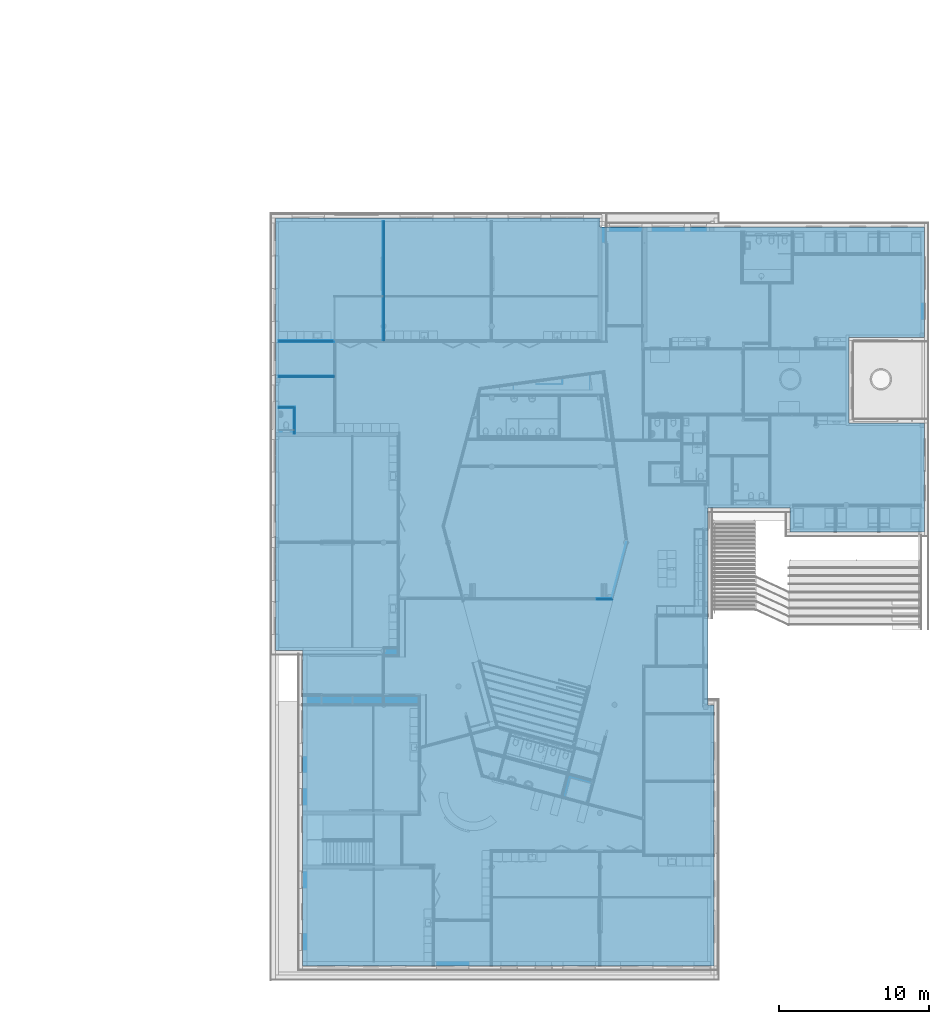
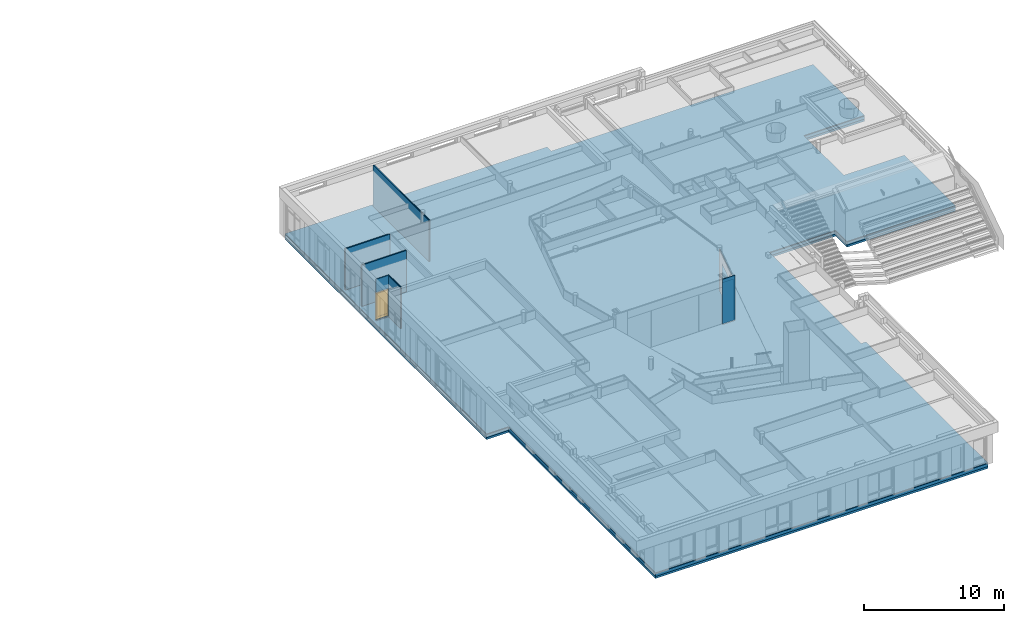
# One storey, part 62 of 167: 21 building element parts, 1 door, 2 openings, 8 elements without a shape of their own, plus 1 element that does not belong to this part.
"""IFC2X3 building model written with IfcOpenShell, lengths in millimetres."""

from ifc_helpers import new_model, entity, si_unit, converted_unit, derived_unit, money_unit, direction, frame, origin_with_axes, place, context, subcontext, project, spatial, open_shell, faceted_brep, surface_model, material, type_object, element, fill, aggregate, save


model = new_model("IFC2X3")

# Units and contexts
model_context = context("Model", 3, precision=0.01, world=origin_with_axes(), true_north=direction((0.0, 1.0)))
plan_context = context("Plan", 3, precision=0.01, world=origin_with_axes(), true_north=direction((0.0, 1.0)))
body_context = subcontext(model_context, "Body", "Model", "MODEL_VIEW")
ifc_project = project(units=[si_unit("LENGTHUNIT", "METRE", prefix="MILLI"), si_unit("AREAUNIT", "SQUARE_METRE"), si_unit("VOLUMEUNIT", "CUBIC_METRE"), converted_unit("PLANEANGLEUNIT", "DEGREE", entity("IfcPlaneAngleMeasure", 0.0174532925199), si_unit("PLANEANGLEUNIT", "RADIAN"), dimensions=[0, 0, 0, 0, 0, 0, 0]), si_unit("SOLIDANGLEUNIT", "STERADIAN"), money_unit("EUR"), converted_unit("TIMEUNIT", "Year", entity("IfcTimeMeasure", 31556926.0), si_unit("TIMEUNIT", "SECOND"), dimensions=[0, 0, 1, 0, 0, 0, 0]), si_unit("MASSUNIT", "GRAM", prefix="KILO"), si_unit("THERMODYNAMICTEMPERATUREUNIT", "DEGREE_CELSIUS"), si_unit("LUMINOUSINTENSITYUNIT", "LUMEN"), si_unit("ENERGYUNIT", "JOULE", prefix="MEGA"), derived_unit("THERMALCONDUCTANCEUNIT", [(si_unit("POWERUNIT", "WATT"), 1), (si_unit("LENGTHUNIT", "METRE"), -1), (si_unit("THERMODYNAMICTEMPERATUREUNIT", "KELVIN"), -1)]), derived_unit("SPECIFICHEATCAPACITYUNIT", [(si_unit("ENERGYUNIT", "JOULE"), 1), (si_unit("MASSUNIT", "GRAM", prefix="KILO"), -1), (si_unit("THERMODYNAMICTEMPERATUREUNIT", "KELVIN"), -1)]), derived_unit("MASSDENSITYUNIT", [(si_unit("MASSUNIT", "GRAM", prefix="KILO"), 1), (si_unit("VOLUMEUNIT", "CUBIC_METRE"), -1)])], contexts=[model_context, plan_context])

# Site, building, storey
site_placement = place(None, origin_with_axes())
site = spatial("IfcSite", under=ifc_project, at=site_placement, Name="Site", CompositionType="ELEMENT")
building_placement = place(site_placement, origin_with_axes())
building = spatial("IfcBuilding", under=site, at=building_placement, Name="Naam gebouw", CompositionType="ELEMENT")
storey_placement = place(building_placement, origin_with_axes())
storey = spatial("IfcBuildingStorey", under=building, at=storey_placement, Name="Begane grond", CompositionType="ELEMENT", Elevation=0.0)

# Door
door_style = type_object("IfcDoorStyle", Name="D1 24", ConstructionType="NOTDEFINED", OperationType="SINGLE_SWING_RIGHT", ParameterTakesPrecedence=False, Sizeable=False)
wall_4_placement = place(storey_placement, frame((0.0, 37789.6283451, -100.0), z_axis=(0.0, 0.0, 1.0), x_axis=(1.0, 0.0, 0.0)))
opening_1_placement = place(wall_4_placement, frame((715.57327863, 0.0, 102.0), z_axis=(0.0, 0.0, 1.0), x_axis=(1.0, 0.0, 0.0)))
door_placement = place(opening_1_placement, frame((-517.0, 0.0, 0.0), z_axis=(0.0, 0.0, 1.0), x_axis=(1.0, 0.0, 0.0)))
door = element("IfcDoor", 1, at=door_placement, inside=storey, type_object=door_style, Name="32_Deur_Hi-01s", ObjectType="DOOR", OverallHeight=2367.0, OverallWidth=1034.0, context=body_context, shape_type="SurfaceModel", body=[
    faceted_brep([(67.0, 10.0, 0.0), (67.0, 10.0, 2300.0), (67.0, -64.0, 2300.0), (67.0, -64.0, 0.0), (42.0, 10.0, 2300.0), (42.0, 10.0, 0.0), (42.0, 50.0, 2300.0), (0.0, 50.0, 2300.0), (0.0, -64.0, 2300.0), (0.0, -64.0, 0.0), (0.0, 50.0, 0.0), (42.0, 50.0, 0.0)], [[[0, 1, 2, 3]], [[4, 1, 0, 5]], [[4, 6, 7, 8, 2, 1]], [[3, 2, 8, 9]], [[5, 0, 3, 9, 10, 11]], [[6, 4, 5, 11]], [[6, 11, 10, 7]], [[10, 9, 8, 7]]]),
    faceted_brep([(992.0, 10.0, 2300.0), (967.0, 10.0, 2300.0), (967.0, -64.0, 2300.0), (1034.0, -64.0, 2300.0), (1034.0, 50.0, 2300.0), (992.0, 50.0, 2300.0), (992.0, 10.0, 0.0), (967.0, 10.0, 0.0), (967.0, -64.0, 0.0), (1034.0, -64.0, 0.0), (1034.0, 50.0, 0.0), (992.0, 50.0, 0.0)], [[[0, 1, 2, 3, 4, 5]], [[1, 0, 6, 7]], [[1, 7, 8, 2]], [[3, 2, 8, 9]], [[4, 3, 9, 10]], [[11, 5, 4, 10]], [[0, 5, 11, 6]], [[6, 11, 10, 9, 8, 7]]]),
    faceted_brep([(42.0, 50.0, 2325.0), (42.0, 50.0, 2300.0), (0.0, 50.0, 2300.0), (0.0, 50.0, 2367.0), (1034.0, 50.0, 2367.0), (1034.0, 50.0, 2300.0), (992.0, 50.0, 2300.0), (992.0, 50.0, 2325.0), (42.0, 10.0, 2325.0), (42.0, 10.0, 2300.0), (67.0, 10.0, 2300.0), (67.0, -64.0, 2300.0), (0.0, -64.0, 2300.0), (0.0, -64.0, 2367.0), (1034.0, -64.0, 2367.0), (1034.0, -64.0, 2300.0), (992.0, 10.0, 2300.0), (967.0, -64.0, 2300.0), (967.0, 10.0, 2300.0), (992.0, 10.0, 2325.0)], [[[0, 1, 2, 3, 4, 5, 6, 7]], [[1, 0, 8, 9]], [[9, 10, 11, 12, 2, 1]], [[2, 12, 13, 3]], [[3, 13, 14, 4]], [[4, 14, 15, 5]], [[16, 6, 5, 15, 17, 18]], [[7, 6, 16, 19]], [[0, 7, 19, 8]], [[16, 18, 10, 9, 8, 19]], [[10, 18, 17, 11]], [[17, 15, 14, 13, 12, 11]]]),
    faceted_brep([(992.0, 50.0, 200.0), (992.0, 10.0, 200.0), (892.0, 10.0, 200.0), (892.0, 50.0, 200.0), (992.0, 50.0, 2225.0), (992.0, 10.0, 2225.0), (892.0, 10.0, 2225.0), (892.0, 50.0, 2225.0)], [[[0, 1, 2, 3]], [[4, 5, 1, 0]], [[1, 5, 6, 2]], [[3, 2, 6, 7]], [[0, 3, 7, 4]], [[7, 6, 5, 4]]]),
    faceted_brep([(42.0, 50.0, 200.0), (42.0, 10.0, 200.0), (42.0, 10.0, 2225.0), (42.0, 50.0, 2225.0), (142.0, 50.0, 200.0), (142.0, 10.0, 200.0), (142.0, 10.0, 2225.0), (142.0, 50.0, 2225.0)], [[[0, 1, 2, 3]], [[4, 5, 1, 0]], [[1, 5, 6, 2]], [[3, 2, 6, 7]], [[0, 3, 7, 4]], [[7, 6, 5, 4]]]),
    faceted_brep([(992.0, 50.0, 0.0), (992.0, 10.0, 0.0), (42.0, 10.0, 0.0), (42.0, 50.0, 0.0), (992.0, 50.0, 200.0), (992.0, 10.0, 200.0), (892.0, 10.0, 200.0), (142.0, 10.0, 200.0), (42.0, 10.0, 200.0), (42.0, 50.0, 200.0), (142.0, 50.0, 200.0), (892.0, 50.0, 200.0)], [[[0, 1, 2, 3]], [[4, 5, 1, 0]], [[1, 5, 6, 7, 8, 2]], [[3, 2, 8, 9]], [[0, 3, 9, 10, 11, 4]], [[11, 6, 5, 4]], [[10, 7, 6, 11]], [[9, 8, 7, 10]]]),
    faceted_brep([(992.0, 50.0, 2325.0), (992.0, 10.0, 2325.0), (992.0, 10.0, 2225.0), (992.0, 50.0, 2225.0), (42.0, 50.0, 2325.0), (42.0, 10.0, 2325.0), (42.0, 10.0, 2225.0), (142.0, 10.0, 2225.0), (892.0, 10.0, 2225.0), (892.0, 50.0, 2225.0), (142.0, 50.0, 2225.0), (42.0, 50.0, 2225.0)], [[[0, 1, 2, 3]], [[4, 5, 1, 0]], [[1, 5, 6, 7, 8, 2]], [[3, 2, 8, 9]], [[0, 3, 9, 10, 11, 4]], [[11, 6, 5, 4]], [[10, 7, 6, 11]], [[9, 8, 7, 10]]]),
    surface_model("IfcShellBasedSurfaceModel", [(892.0, 36.0, 200.0), (142.0, 36.0, 200.0), (142.0, 36.0, 2225.0), (892.0, 36.0, 2225.0)], [open_shell([[[0, 1, 2, 3]]])]),
    surface_model("IfcShellBasedSurfaceModel", [(892.0, 24.0, 200.0), (892.0, 24.0, 2225.0), (142.0, 24.0, 2225.0), (142.0, 24.0, 200.0)], [open_shell([[[0, 1, 2, 3]]])]),
])

# Wall, building element parts
wall_type = type_object("IfcWallType", Name="_TenW_22_Metalstud 100 enkel gipsvezelplaat 100", PredefinedType="NOTDEFINED")
wall_1_placement = place(storey_placement, frame((0.0, 42200.0, -100.0), z_axis=(0.0, 0.0, 1.0), x_axis=(1.0, 0.0, 0.0)))
wall_1 = element("IfcWall", 2, at=wall_1_placement, inside=storey, type_object=wall_type, Name="22_Wand_Wand-x")
ifc_material_1 = material(Name="Gipsplaat watervast")
building_element_part_1_placement = place(wall_1_placement, origin_with_axes())
building_element_part_1 = element("IfcBuildingElementPart", 3, at=building_element_part_1_placement, material=ifc_material_1, Name="Gipsplaat watervast", context=body_context, shape_type="Brep", body=[
    faceted_brep([(3800.0, 37.5, 30.0), (3800.0, 50.0, 30.0), (3800.0, 50.0, 3630.0), (3800.0, 37.5, 3630.0), (214.0, 50.0, 30.0), (214.0, 37.5, 30.0), (214.0, 50.0, 3630.0), (214.0, 37.5, 3630.0)], [[[0, 1, 2, 3]], [[4, 1, 0, 5]], [[1, 4, 6, 2]], [[7, 3, 2, 6]], [[5, 0, 3, 7]], [[4, 5, 7, 6]]]),
])
ifc_material_2 = material(Name="Isolatie - Steenwol zacht")
building_element_part_2_placement = place(wall_1_placement, origin_with_axes())
building_element_part_2 = element("IfcBuildingElementPart", 4, at=building_element_part_2_placement, material=ifc_material_2, Name="Isolatie - Steenwol zacht", context=body_context, shape_type="Brep", body=[
    faceted_brep([(3800.0, -37.5, 30.0), (3800.0, 37.5, 30.0), (3800.0, 37.5, 3630.0), (3800.0, -37.5, 3630.0), (214.0, 37.5, 30.0), (214.0, -37.5, 30.0), (214.0, 37.5, 3630.0), (214.0, -37.5, 3630.0)], [[[0, 1, 2, 3]], [[4, 1, 0, 5]], [[1, 4, 6, 2]], [[7, 3, 2, 6]], [[5, 0, 3, 7]], [[4, 5, 7, 6]]]),
])
building_element_part_3_placement = place(wall_1_placement, origin_with_axes())
building_element_part_3 = element("IfcBuildingElementPart", 5, at=building_element_part_3_placement, material=ifc_material_1, Name="Gipsplaat watervast", context=body_context, shape_type="Brep", body=[
    faceted_brep([(3912.5, -50.0, 30.0), (3912.5, -37.5, 30.0), (3912.5, -37.5, 3629.9999999), (3912.5, -50.0, 3629.9999999), (214.0, -37.5, 30.0), (214.0, -50.0, 30.0), (214.0, -37.5, 3630.0), (214.0, -50.0, 3630.0)], [[[0, 1, 2, 3]], [[4, 1, 0, 5]], [[1, 4, 6, 2]], [[2, 6, 7, 3]], [[5, 0, 3, 7]], [[4, 5, 7, 6]]]),
])
aggregate(wall_1, [building_element_part_1, building_element_part_2, building_element_part_3])

wall_2_placement = place(storey_placement, frame((7200.0, 50400.0, -100.0), z_axis=(0.0, 0.0, 1.0), x_axis=(0.0, -1.0, 0.0)))
wall_2 = element("IfcWall", 6, at=wall_2_placement, inside=storey, type_object=wall_type, Name="22_Wand_Wand-x")
building_element_part_4_placement = place(wall_2_placement, origin_with_axes())
building_element_part_4 = element("IfcBuildingElementPart", 7, at=building_element_part_4_placement, material=ifc_material_1, Name="Gipsplaat watervast", context=body_context, shape_type="Brep", body=[
    faceted_brep([(8150.0, 50.0, 30.0), (214.0, 50.0, 30.0), (214.0, 50.0, 3630.0), (8150.0, 50.0, 3629.99999994), (214.0, 37.5, 30.0), (8150.0, 37.5, 30.0), (214.0, 37.5, 3630.0), (8150.0, 37.5, 3629.99999994)], [[[0, 1, 2, 3]], [[4, 1, 0, 5]], [[1, 4, 6, 2]], [[3, 2, 6, 7]], [[5, 0, 3, 7]], [[4, 5, 7, 6]]]),
])
building_element_part_5_placement = place(wall_2_placement, origin_with_axes())
building_element_part_5 = element("IfcBuildingElementPart", 8, at=building_element_part_5_placement, material=ifc_material_2, Name="Isolatie - Steenwol zacht", context=body_context, shape_type="Brep", body=[
    faceted_brep([(8162.5, 37.5, 30.0), (214.0, 37.5, 30.0), (214.0, 37.5, 3630.0), (8162.5, 37.5, 3629.99999995), (214.0, -37.5, 30.0), (8162.5, -37.5, 30.0), (214.0, -37.5, 3630.0), (8162.5, -37.5, 3629.99999995)], [[[0, 1, 2, 3]], [[4, 1, 0, 5]], [[1, 4, 6, 2]], [[3, 2, 6, 7]], [[5, 0, 3, 7]], [[4, 5, 7, 6]]]),
])
building_element_part_6_placement = place(wall_2_placement, origin_with_axes())
building_element_part_6 = element("IfcBuildingElementPart", 9, at=building_element_part_6_placement, material=ifc_material_1, Name="Gipsplaat watervast", context=body_context, shape_type="Brep", body=[
    faceted_brep([(8150.0, -37.5, 30.0), (214.0, -37.5, 30.0), (214.0, -37.5, 3630.0), (8150.0, -37.5, 3629.99999994), (214.0, -50.0, 30.0), (8150.0, -50.0, 30.0), (214.0, -50.0, 3630.0), (8150.0, -50.0, 3629.99999994)], [[[0, 1, 2, 3]], [[4, 1, 0, 5]], [[1, 4, 6, 2]], [[3, 2, 6, 7]], [[5, 0, 3, 7]], [[4, 5, 7, 6]]]),
])
aggregate(wall_2, [building_element_part_4, building_element_part_5, building_element_part_6])

# Slab, building element parts
slab_type = type_object("IfcSlabType", Name="_TenW_23_260mm Kanaalplaat+dv+iso RC 4,5 570", PredefinedType="NOTDEFINED")
slab_placement = place(storey_placement, frame((1800.0, 600.0, 0.0), z_axis=(0.0, 0.0, 1.0), x_axis=(1.0, 0.0, 0.0)))
slab = element("IfcSlab", 10, at=slab_placement, inside=storey, type_object=slab_type, Name="23_Vloer_Vloer-x", PredefinedType="NOTDEFINED")
ifc_material_3 = material(Name="Beton gewapend C vloer")
building_element_part_7_placement = place(slab_placement, origin_with_axes())
building_element_part_7 = element("IfcBuildingElementPart", 11, at=building_element_part_7_placement, material=ifc_material_3, Name="Beton gewapend C vloer", context=body_context, shape_type="Brep", body=[
    faceted_brep([(27400.0, 0.0, -130.0), (27400.0, 0.0, -70.0), (0.0, 0.0, -70.0), (0.0, 0.0, -130.0), (27400.0, 17400.0, -130.0), (27400.0, 17400.0, -70.0), (27000.0, 17400.0, -70.0), (27000.0, 30485.9997845, -70.0), (32461.0000014, 30485.9997845, -70.0), (32461.0000014, 28886.0000132, -70.0), (41400.0, 28886.0000132, -70.0), (41400.0, 36149.9999919, -70.0), (36392.3999539, 36149.9999919, -70.0), (36392.3999539, 41850.0, -70.0), (41400.0, 41850.0, -70.0), (41400.0, 49200.0, -70.0), (19800.0, 49200.0, -70.0), (19800.0, 49800.0, -70.0), (-1800.0, 49800.0, -70.0), (-1800.0, 21000.0, -70.0), (0.0, 21000.0, -70.0), (0.0, 21000.0, -130.0), (-1800.0, 21000.0, -130.0), (-1800.0, 49800.0, -130.0), (19800.0, 49800.0, -130.0), (19800.0, 49200.0, -130.0), (41400.0, 49200.0, -130.0), (41400.0, 41850.0, -130.0), (36392.3999539, 41850.0, -130.0), (36392.3999539, 36149.9999919, -130.0), (41400.0, 36149.9999919, -130.0), (41400.0, 28886.0000132, -130.0), (32461.0000014, 28886.0000132, -130.0), (32461.0000014, 30485.9997845, -130.0), (27000.0, 30485.9997845, -130.0), (27000.0, 17400.0, -130.0)], [[[0, 1, 2, 3]], [[4, 5, 1, 0]], [[2, 1, 5, 6, 7, 8, 9, 10, 11, 12, 13, 14, 15, 16, 17, 18, 19, 20]], [[3, 2, 20, 21]], [[3, 21, 22, 23, 24, 25, 26, 27, 28, 29, 30, 31, 32, 33, 34, 35, 4, 0]], [[35, 6, 5, 4]], [[34, 7, 6, 35]], [[33, 8, 7, 34]], [[32, 9, 8, 33]], [[31, 10, 9, 32]], [[30, 11, 10, 31]], [[29, 12, 11, 30]], [[28, 13, 12, 29]], [[27, 14, 13, 28]], [[26, 15, 14, 27]], [[25, 16, 15, 26]], [[24, 17, 16, 25]], [[23, 18, 17, 24]], [[22, 19, 18, 23]], [[21, 20, 19, 22]]]),
])
ifc_material_4 = material(Name="Beton gewapend prefab vloer")
building_element_part_8_placement = place(slab_placement, origin_with_axes())
building_element_part_8 = element("IfcBuildingElementPart", 12, at=building_element_part_8_placement, material=ifc_material_4, Name="Beton gewapend prefab vloer", context=body_context, shape_type="Brep", body=[
    faceted_brep([(27400.0, 0.0, -390.0), (27400.0, 0.0, -130.0), (0.0, 0.0, -130.0), (0.0, 0.0, -390.0), (27400.0, 17400.0, -390.0), (27400.0, 17400.0, -130.0), (27000.0, 17400.0, -130.0), (27000.0, 30485.9997845, -130.0), (32461.0000014, 30485.9997845, -130.0), (32461.0000014, 28886.0000132, -130.0), (41400.0, 28886.0000132, -130.0), (41400.0, 36149.9999919, -130.0), (36392.3999539, 36149.9999919, -130.0), (36392.3999539, 41850.0, -130.0), (41400.0, 41850.0, -130.0), (41400.0, 49200.0, -130.0), (19800.0, 49200.0, -130.0), (19800.0, 49800.0, -130.0), (-1800.0, 49800.0, -130.0), (-1800.0, 21000.0, -130.0), (0.0, 21000.0, -130.0), (0.0, 21000.0, -390.0), (-1800.0, 21000.0, -390.0), (-1800.0, 49800.0, -390.0), (19800.0, 49800.0, -390.0), (19800.0, 49200.0, -390.0), (41400.0, 49200.0, -390.0), (41400.0, 41850.0, -390.0), (36392.3999539, 41850.0, -390.0), (36392.3999539, 36149.9999919, -390.0), (41400.0, 36149.9999919, -390.0), (41400.0, 28886.0000132, -390.0), (32461.0000014, 28886.0000132, -390.0), (32461.0000014, 30485.9997845, -390.0), (27000.0, 30485.9997845, -390.0), (27000.0, 17400.0, -390.0)], [[[0, 1, 2, 3]], [[4, 5, 1, 0]], [[2, 1, 5, 6, 7, 8, 9, 10, 11, 12, 13, 14, 15, 16, 17, 18, 19, 20]], [[3, 2, 20, 21]], [[3, 21, 22, 23, 24, 25, 26, 27, 28, 29, 30, 31, 32, 33, 34, 35, 4, 0]], [[35, 6, 5, 4]], [[34, 7, 6, 35]], [[33, 8, 7, 34]], [[32, 9, 8, 33]], [[31, 10, 9, 32]], [[30, 11, 10, 31]], [[29, 12, 11, 30]], [[28, 13, 12, 29]], [[27, 14, 13, 28]], [[26, 15, 14, 27]], [[25, 16, 15, 26]], [[24, 17, 16, 25]], [[23, 18, 17, 24]], [[22, 19, 18, 23]], [[21, 20, 19, 22]]]),
])
ifc_material_5 = material(Name="Isolatie - Kunststof hard")
building_element_part_9_placement = place(slab_placement, origin_with_axes())
building_element_part_9 = element("IfcBuildingElementPart", 13, at=building_element_part_9_placement, material=ifc_material_5, Name="Isolatie - Kunststof hard", context=body_context, shape_type="Brep", body=[
    faceted_brep([(0.0, 0.0, -570.0), (27400.0, 0.0, -570.0), (27400.0, 0.0, -390.0), (0.0, 0.0, -390.0), (0.0, 21000.0, -570.0), (-1800.0, 21000.0, -570.0), (-1800.0, 49800.0, -570.0), (19800.0, 49800.0, -570.0), (19800.0, 49200.0, -570.0), (41400.0, 49200.0, -570.0), (41400.0, 41850.0, -570.0), (36392.3999539, 41850.0, -570.0), (36392.3999539, 36149.9999919, -570.0), (41400.0, 36149.9999919, -570.0), (41400.0, 28886.0000132, -570.0), (32461.0000014, 28886.0000132, -570.0), (32461.0000014, 30485.9997845, -570.0), (27000.0, 30485.9997845, -570.0), (27000.0, 17400.0, -570.0), (27400.0, 17400.0, -570.0), (27400.0, 17400.0, -390.0), (27000.0, 17400.0, -390.0), (27000.0, 30485.9997845, -390.0), (32461.0000014, 30485.9997845, -390.0), (32461.0000014, 28886.0000132, -390.0), (41400.0, 28886.0000132, -390.0), (41400.0, 36149.9999919, -390.0), (36392.3999539, 36149.9999919, -390.0), (36392.3999539, 41850.0, -390.0), (41400.0, 41850.0, -390.0), (41400.0, 49200.0, -390.0), (19800.0, 49200.0, -390.0), (19800.0, 49800.0, -390.0), (-1800.0, 49800.0, -390.0), (-1800.0, 21000.0, -390.0), (0.0, 21000.0, -390.0)], [[[0, 1, 2, 3]], [[0, 4, 5, 6, 7, 8, 9, 10, 11, 12, 13, 14, 15, 16, 17, 18, 19, 1]], [[1, 19, 20, 2]], [[3, 2, 20, 21, 22, 23, 24, 25, 26, 27, 28, 29, 30, 31, 32, 33, 34, 35]], [[4, 0, 3, 35]], [[5, 4, 35, 34]], [[6, 5, 34, 33]], [[7, 6, 33, 32]], [[8, 7, 32, 31]], [[9, 8, 31, 30]], [[10, 9, 30, 29]], [[11, 10, 29, 28]], [[12, 11, 28, 27]], [[13, 12, 27, 26]], [[14, 13, 26, 25]], [[15, 14, 25, 24]], [[16, 15, 24, 23]], [[17, 16, 23, 22]], [[18, 17, 22, 21]], [[19, 18, 21, 20]]]),
])
aggregate(slab, [building_element_part_7, building_element_part_8, building_element_part_9])

# Wall, building element parts
wall_3_placement = place(storey_placement, frame((0.0, 39850.0, -100.0), z_axis=(0.0, 0.0, 1.0), x_axis=(1.0, 0.0, 0.0)))
wall_3 = element("IfcWall", 14, at=wall_3_placement, inside=storey, type_object=wall_type, Name="22_Wand_Wand-x")
building_element_part_10_placement = place(wall_3_placement, origin_with_axes())
building_element_part_10 = element("IfcBuildingElementPart", 15, at=building_element_part_10_placement, material=ifc_material_1, Name="Gipsplaat watervast", context=body_context, shape_type="Brep", body=[
    faceted_brep([(3900.0, 37.5, 30.0), (3900.0, 50.0, 30.0), (3900.0, 50.0, 3629.99999989), (3900.0, 37.5, 3629.99999989), (214.0, 50.0, 30.0), (214.0, 37.5, 30.0), (214.0, 50.0, 3630.0), (214.0, 37.5, 3630.0)], [[[0, 1, 2, 3]], [[4, 1, 0, 5]], [[1, 4, 6, 2]], [[2, 6, 7, 3]], [[5, 0, 3, 7]], [[4, 5, 7, 6]]]),
])
building_element_part_11_placement = place(wall_3_placement, origin_with_axes())
building_element_part_11 = element("IfcBuildingElementPart", 16, at=building_element_part_11_placement, material=ifc_material_2, Name="Isolatie - Steenwol zacht", context=body_context, shape_type="Brep", body=[
    faceted_brep([(3912.5, -37.5, 30.0), (3912.5, 37.5, 30.0), (3912.5, 37.5, 3629.9999999), (3912.5, -37.5, 3629.9999999), (214.0, 37.5, 30.0), (214.0, -37.5, 30.0), (214.0, 37.5, 3630.0), (214.0, -37.5, 3630.0)], [[[0, 1, 2, 3]], [[4, 1, 0, 5]], [[1, 4, 6, 2]], [[2, 6, 7, 3]], [[5, 0, 3, 7]], [[4, 5, 7, 6]]]),
])
building_element_part_12_placement = place(wall_3_placement, origin_with_axes())
building_element_part_12 = element("IfcBuildingElementPart", 17, at=building_element_part_12_placement, material=ifc_material_1, Name="Gipsplaat watervast", context=body_context, shape_type="Brep", body=[
    faceted_brep([(3900.0, -50.0, 30.0), (3900.0, -37.5, 30.0), (3900.0, -37.5, 3629.99999989), (3900.0, -50.0, 3629.99999989), (214.0, -37.5, 30.0), (214.0, -50.0, 30.0), (214.0, -37.5, 3630.0), (214.0, -50.0, 3630.0)], [[[0, 1, 2, 3]], [[4, 1, 0, 5]], [[1, 4, 6, 2]], [[2, 6, 7, 3]], [[5, 0, 3, 7]], [[4, 5, 7, 6]]]),
])
aggregate(wall_3, [building_element_part_10, building_element_part_11, building_element_part_12])

# Wall, opening
wall_4 = element("IfcWall", 18, at=wall_4_placement, inside=storey, type_object=wall_type, Name="22_Wand_Wand-x")
opening_1 = element("IfcOpeningElement", 19, at=opening_1_placement, cuts=wall_4, Name="32_Deur_Hi-01s", context=body_context, shape_type="Brep", body=[
    faceted_brep([(517.0, -100.0, 2367.0), (517.0, -100.0, 0.0), (517.0, 200.0, 0.0), (517.0, 200.0, 2367.0), (-517.0, -100.0, 2367.0), (-517.0, -100.0, 0.0), (-517.0, 200.0, 0.0), (-517.0, 200.0, 2367.0)], [[[0, 1, 2, 3]], [[0, 4, 5, 1]], [[1, 5, 6, 2]], [[3, 2, 6, 7]], [[4, 0, 3, 7]], [[5, 4, 7, 6]]]),
])

fill(opening_1, door)

# Building element part
building_element_part_13_placement = place(wall_4_placement, origin_with_axes())
building_element_part_13 = element("IfcBuildingElementPart", 20, at=building_element_part_13_placement, material=ifc_material_1, Name="Gipsplaat watervast", context=body_context, shape_type="Brep", body=[
    faceted_brep([(214.0, 49.9999852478, 102.0), (1232.57327863, 49.9999852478, 102.0), (1232.57327863, 49.9999852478, 2469.0), (214.0, 49.9999852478, 2469.0), (214.0, 50.0, 3630.0), (1314.0, 50.0, 3629.99999986), (1314.0, 50.0, 30.0), (214.0, 50.0, 30.0), (214.0, 37.5, 102.0), (1232.57327863, 37.5, 102.0), (1232.57327863, 37.5, 2469.0), (214.0, 37.5, 2469.0), (214.0, 37.5, 3630.0), (1314.0, 37.5, 3629.99999986), (1314.0, 37.5, 30.0), (214.0, 37.5, 30.0)], [[[0, 1, 2, 3, 4, 5, 6, 7]], [[1, 0, 8, 9]], [[2, 1, 9, 10]], [[3, 2, 10, 11]], [[3, 11, 12, 4]], [[13, 5, 4, 12]], [[13, 14, 6, 5]], [[15, 7, 6, 14]], [[8, 0, 7, 15]], [[9, 8, 15, 14, 13, 12, 11, 10]]]),
])

building_element_part_14_placement = place(wall_4_placement, origin_with_axes())
building_element_part_14 = element("IfcBuildingElementPart", 21, at=building_element_part_14_placement, material=ifc_material_2, Name="Isolatie - Steenwol zacht", context=body_context, shape_type="Brep", body=[
    faceted_brep([(214.0, 37.5, 102.0), (1232.57327863, 37.5, 102.0), (1232.57327863, 37.5, 2469.0), (214.0, 37.5, 2469.0), (214.0, 37.5, 3630.0), (1301.5, 37.5, 3629.99999984), (1301.5, 37.5, 30.0), (214.0, 37.5, 30.0), (214.0, -37.5, 102.0), (1226.5, -37.5, 102.0), (1232.57327863, -31.4267213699, 102.0), (1232.57327863, -31.4267213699, 2469.0), (1226.5, -37.5, 2469.0), (214.0, -37.5, 2469.0), (214.0, -37.5, 3630.0), (1301.5, -37.5, 3629.99999984), (1301.5, -37.5, 30.0), (214.0, -37.5, 30.0)], [[[0, 1, 2, 3, 4, 5, 6, 7]], [[1, 0, 8, 9, 10]], [[2, 1, 10, 11]], [[3, 2, 11, 12, 13]], [[3, 13, 14, 4]], [[15, 5, 4, 14]], [[15, 16, 6, 5]], [[17, 7, 6, 16]], [[8, 0, 7, 17]], [[9, 8, 17, 16, 15, 14, 13, 12]], [[9, 12, 11, 10]]]),
])

building_element_part_15_placement = place(wall_4_placement, origin_with_axes())
building_element_part_15 = element("IfcBuildingElementPart", 22, at=building_element_part_15_placement, material=ifc_material_1, Name="Gipsplaat watervast", context=body_context, shape_type="Brep", body=[
    faceted_brep([(1226.5, -37.5, 102.0), (1226.5, -37.5, 2469.0), (1226.5, -37.5, 3629.99999974), (1226.5, -50.0, 3629.99999974), (1226.5, -50.0, 30.0), (1226.5, -37.5, 30.0), (1214.0, -50.0, 102.0), (1214.0, -50.0, 2469.0), (214.0, -37.5, 2469.0), (214.0, -37.5, 3630.0), (214.0, -50.0, 3630.0), (214.0, -50.0, 102.0), (214.0, -50.0, 30.0), (214.0, -50.0, 2469.0), (214.0, -37.5, 30.0), (214.0, -37.5, 102.0)], [[[0, 1, 2, 3, 4, 5]], [[1, 0, 6, 7]], [[1, 8, 9, 2]], [[3, 2, 9, 10]], [[6, 11, 12, 4, 3, 10, 13, 7]], [[12, 14, 5, 4]], [[15, 0, 5, 14]], [[0, 15, 11, 6]], [[8, 1, 7, 13]], [[8, 13, 10, 9]], [[11, 15, 14, 12]]]),
])

aggregate(wall_4, [building_element_part_13, building_element_part_14, building_element_part_15])

# Wall, building element parts
wall_5_placement = place(storey_placement, frame((1264.0, 36039.6283451, -100.0), z_axis=(0.0, 0.0, 1.0), x_axis=(0.0, 1.0, 0.0)))
wall_5 = element("IfcWall", 23, at=wall_5_placement, inside=storey, type_object=wall_type, Name="22_Wand_Wand-x")
building_element_part_16_placement = place(wall_5_placement, origin_with_axes())
building_element_part_16 = element("IfcBuildingElementPart", 24, at=building_element_part_16_placement, material=ifc_material_1, Name="Gipsplaat watervast", context=body_context, shape_type="Brep", body=[
    faceted_brep([(0.0, 37.5, 3630.0), (0.0, 37.5, 30.0), (1700.0, 37.5, 30.0), (1700.0, 37.5, 3630.0), (0.0, 50.0, 3630.0), (0.0, 50.0, 30.0), (1700.0, 50.0, 30.0), (1700.0, 50.0, 3630.0)], [[[0, 1, 2, 3]], [[4, 5, 1, 0]], [[5, 6, 2, 1]], [[3, 2, 6, 7]], [[0, 3, 7, 4]], [[7, 6, 5, 4]]]),
])
building_element_part_17_placement = place(wall_5_placement, origin_with_axes())
building_element_part_17 = element("IfcBuildingElementPart", 25, at=building_element_part_17_placement, material=ifc_material_2, Name="Isolatie - Steenwol zacht", context=body_context, shape_type="Brep", body=[
    faceted_brep([(0.0, -37.5, 3630.0), (0.0, -37.5, 30.0), (1712.5, -37.5, 30.0), (1712.5, -37.5, 3630.0), (0.0, 37.5, 3630.0), (0.0, 37.5, 30.0), (1712.5, 37.5, 30.0), (1712.5, 37.5, 3630.0)], [[[0, 1, 2, 3]], [[4, 5, 1, 0]], [[5, 6, 2, 1]], [[3, 2, 6, 7]], [[0, 3, 7, 4]], [[7, 6, 5, 4]]]),
])
building_element_part_18_placement = place(wall_5_placement, origin_with_axes())
building_element_part_18 = element("IfcBuildingElementPart", 26, at=building_element_part_18_placement, material=ifc_material_1, Name="Gipsplaat watervast", context=body_context, shape_type="Brep", body=[
    faceted_brep([(0.0, -50.0, 30.0), (1787.5, -50.0, 30.0), (1787.5, -50.0, 3630.0), (0.0, -50.0, 3630.0), (1787.5, -37.5, 30.0), (0.0, -37.5, 30.0), (1787.5, -37.5, 3630.0), (0.0, -37.5, 3630.0)], [[[0, 1, 2, 3]], [[4, 1, 0, 5]], [[1, 4, 6, 2]], [[2, 6, 7, 3]], [[5, 0, 3, 7]], [[4, 5, 7, 6]]]),
])
aggregate(wall_5, [building_element_part_16, building_element_part_17, building_element_part_18])

# Wall, opening, building element part
wall_6_placement = place(storey_placement, frame((22396.2331385, 25025.0, -70.0), z_axis=(0.0, 0.0, 1.0), x_axis=(0.256969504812, 0.966419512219, 0.0)))
wall_6 = element("IfcWall", 27, at=wall_6_placement, inside=storey, type_object=wall_type, Name="22_Wand_Wand-x")
opening_2_placement = place(wall_6_placement, frame((2309.73740049, 0.0, 1025.40981859), z_axis=(0.0, 0.0, 1.0), x_axis=(1.0, 0.0, 0.0)))
element("IfcOpeningElement", 28, at=opening_2_placement, cuts=wall_6, Name="31_Raam_Hi-47", context=body_context, shape_type="Brep", body=[
    faceted_brep([(-900.0, 100.0, 1800.0), (-900.0, 100.0, 0.0), (-900.0, -225.0, 0.0), (-900.0, -225.0, 1800.0), (900.0, 100.0, 1800.0), (900.0, 100.0, 0.0), (900.0, -225.0, 0.0), (900.0, -225.0, 1800.0)], [[[0, 1, 2, 3]], [[0, 4, 5, 1]], [[1, 5, 6, 2]], [[3, 2, 6, 7]], [[4, 0, 3, 7]], [[5, 4, 7, 6]]]),
])
building_element_part_19_placement = place(wall_6_placement, origin_with_axes())
building_element_part_19 = element("IfcBuildingElementPart", 29, at=building_element_part_19_placement, material=ifc_material_1, Name="Gipsplaat watervast", context=body_context, shape_type="Brep", body=[
    faceted_brep([(3928.70095848, 50.0, 3600.0), (3928.70095848, 50.0, 0.0), (25.5080991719, 50.0, 0.0), (25.5080991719, 50.0, 3600.0), (1409.73740049, 50.0, 1025.40981859), (3209.73740049, 50.0, 1025.40981859), (3209.73740049, 50.0, 2825.40981859), (1409.73740049, 50.0, 2825.40981859), (3898.67672118, 37.5, 3600.0), (3898.67672118, 37.5, 0.0), (28.8318305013, 37.5, 0.0), (28.8318305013, 37.5, 3600.0), (1409.73740049, 37.5, 1025.40981859), (3209.73740049, 37.5, 1025.40981859), (3209.73740049, 37.5, 2825.40981859), (1409.73740049, 37.5, 2825.40981859)], [[[0, 1, 2, 3], [4, 5, 6, 7]], [[8, 9, 1, 0]], [[1, 9, 10, 2]], [[3, 2, 10, 11]], [[8, 0, 3, 11]], [[12, 13, 5, 4]], [[13, 14, 6, 5]], [[14, 15, 7, 6]], [[15, 12, 4, 7]], [[11, 10, 9, 8], [12, 15, 14, 13]]]),
])
aggregate(wall_6, [building_element_part_19])

# Wall, building element parts
wall_7_placement = place(storey_placement, frame((21404.1378188, 25025.0, -70.0), z_axis=(0.0, 0.0, 1.0), x_axis=(1.0, 0.0, 0.0)))
wall_7 = element("IfcWall", 30, at=wall_7_placement, inside=storey, type_object=wall_type, Name="22_Wand_Wand-x")
building_element_part_20_placement = place(wall_7_placement, origin_with_axes())
building_element_part_20 = element("IfcBuildingElementPart", 31, at=building_element_part_20_placement, material=ifc_material_1, Name="Gipsplaat watervast", context=body_context, shape_type="Brep", body=[
    faceted_brep([(0.0, 50.0, 3600.0), (953.652879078, 49.9999999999, 3600.0), (953.652879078, 49.9999999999, 0.0), (0.0, 50.0, 0.0), (950.329147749, 37.4999999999, 3600.0), (0.0, 37.5, 3600.0), (950.329147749, 37.4999999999, 0.0), (0.0, 37.5, 0.0)], [[[0, 1, 2, 3]], [[4, 1, 0, 5]], [[1, 4, 6, 2]], [[3, 2, 6, 7]], [[5, 0, 3, 7]], [[4, 5, 7, 6]]]),
])
building_element_part_21_placement = place(wall_7_placement, origin_with_axes())
building_element_part_21 = element("IfcBuildingElementPart", 32, at=building_element_part_21_placement, material=ifc_material_2, Name="Isolatie - Steenwol zacht", context=body_context, shape_type="Brep", body=[
    faceted_brep([(0.0, 37.5, 3600.0), (963.263489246, 37.4999999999, 3600.0), (963.263489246, 37.4999999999, 0.0), (0.0, 37.5, 0.0), (955.512745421, 8.35074327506, 3600.0), (0.0, 12.2915164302, 3600.0), (955.512745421, 8.35074327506, 3930.0), (943.321101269, -37.5000000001, 3930.0), (943.321101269, -37.5000000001, 0.0), (0.0, -37.5, 0.0), (0.0, -37.5, 3940.0), (0.0, 12.2915164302, 3940.0), (960.77112573, 8.32905640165, 3940.0), (960.77112573, 8.32905640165, 3930.0), (1028.33605146, -9.63635643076, 3930.0), (1040.41629536, -12.8484752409, 3930.0), (1033.86149175, -37.5000000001, 3930.0), (1033.88894157, -37.5000000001, 3930.0), (1033.88894157, -37.5000000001, 3940.0), (1040.42886581, -12.8484752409, 3940.0), (1040.41629536, -12.8484752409, 3940.0), (1028.33605146, -9.63635643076, 3940.0), (1040.42886581, -12.8484752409, 3930.0)], [[[0, 1, 2, 3]], [[4, 1, 0, 5]], [[4, 6, 7, 8, 2, 1]], [[3, 2, 8, 9]], [[5, 0, 3, 9, 10, 11]], [[4, 5, 11, 12, 13, 6]], [[6, 13, 14, 15, 16, 7]], [[17, 18, 10, 9, 8, 7, 16]], [[18, 19, 20, 21, 12, 11, 10]], [[13, 12, 21, 14]], [[20, 15, 14, 21]], [[22, 17, 16, 15]], [[22, 19, 18, 17]], [[19, 22, 15, 20]]]),
])
building_element_part_22_placement = place(wall_7_placement, origin_with_axes())
building_element_part_22 = element("IfcBuildingElementPart", 33, at=building_element_part_22_placement, material=ifc_material_1, Name="Gipsplaat watervast", context=body_context, shape_type="Brep", body=[
    faceted_brep([(1030.57275509, -50.0000000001, 3940.0), (1033.88894157, -37.5000000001, 3940.0), (0.0, -37.5, 3940.0), (0.0, -50.0, 3940.0), (1033.88894157, -37.5000000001, 3930.0), (1030.57275509, -50.0000000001, 3930.0), (1033.86149175, -37.5000000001, 3930.0), (1020.92715025, -37.5000000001, 3930.0), (1020.92715025, -37.5000000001, 0.0), (0.0, -37.5, 0.0), (0.0, -50.0, 0.0), (1017.60341892, -50.0000000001, 0.0), (1017.60341892, -50.0000000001, 3930.0), (1030.53776042, -50.0000000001, 3930.0)], [[[0, 1, 2, 3]], [[4, 1, 0, 5]], [[1, 4, 6, 7, 8, 9, 2]], [[2, 9, 10, 3]], [[5, 0, 3, 10, 11, 12, 13]], [[4, 5, 13, 6]], [[12, 7, 6, 13]], [[11, 8, 7, 12]], [[9, 8, 11, 10]]]),
])
aggregate(wall_7, [building_element_part_20, building_element_part_21, building_element_part_22])

save(model, "model.ifc")
